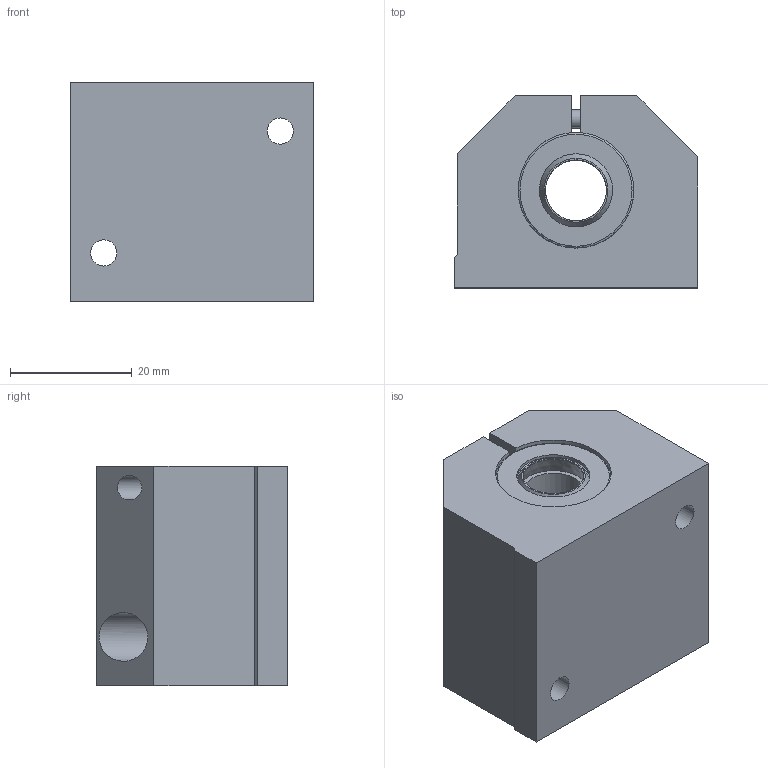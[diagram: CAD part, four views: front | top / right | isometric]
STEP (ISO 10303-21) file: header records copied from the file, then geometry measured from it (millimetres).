
FILE_DESCRIPTION(('STEP AP203'),'1');
FILE_NAME('//192.168.1.1/share/s-4 技術開発/s-4-4_CAD/s-4-4-3_見直し済み/008 修正済み/SLS(済)/SLS_TOP/SLS-10.step','2022-03-09T07:12:01',(' '),(' '),'Spatial InterOp 3D',' ',' ');
FILE_SCHEMA(('CONFIG_CONTROL_DESIGN'));
Length unit declared in the file: millimetre
Products named in the file (1): 1
Bounding box: 40 x 31.5 x 36 mm (x, y, z)
Volume: 35584.7 mm3; surface area: 11102 mm2
Topology: 1 solids, 1 shells, 91 faces, 205 edges, 128 vertices
Faces by surface type: plane 41, cylinder 35, torus 8, cone 7
Full cylindrical faces by diameter (mm): 3 x2, 3.4 x1, 4 x2, 4.3 x4, 5.5 x1, 6 x1, 6.75 x2, 8 x2, 10 x3, 12 x2, 14.5 x2, 18 x2
Entity records: 2328 total; most frequent: DIRECTION 414, CARTESIAN_POINT 394, ORIENTED_EDGE 304, AXIS2_PLACEMENT_3D 171, EDGE_LOOP 158, EDGE_CURVE 152, FACE_OUTER_BOUND 123, VERTEX_POINT 117
